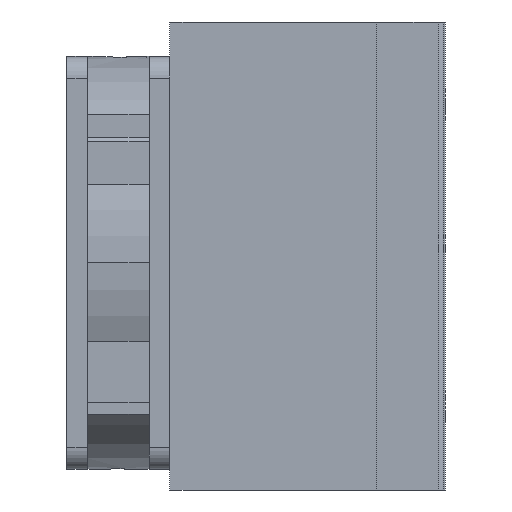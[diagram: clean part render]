
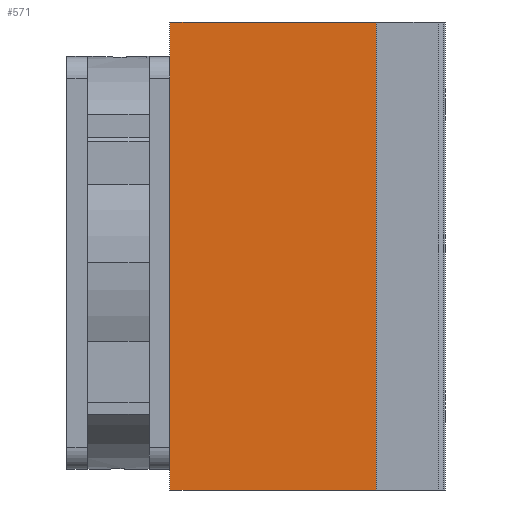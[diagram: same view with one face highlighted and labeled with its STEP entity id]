
A CAD part, left-side view. The second image highlights one B-rep face of the part: STEP entity #571.
In plain terms, the highlighted planar face has unit normal (-1, 0, 0).
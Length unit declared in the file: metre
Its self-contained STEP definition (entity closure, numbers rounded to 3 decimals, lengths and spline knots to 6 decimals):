
#571=ADVANCED_FACE('11:6706',(#1333),#1334,.T.);
#1333=FACE_OUTER_BOUND('',#2319,.T.);
#1334=PLANE('',#2320);
#2319=EDGE_LOOP('',(#5119,#5120,#5121,#5122));
#2320=AXIS2_PLACEMENT_3D('',#5123,#5124,#5125);
#5119=ORIENTED_EDGE('',*,*,#7523,.F.);
#5120=ORIENTED_EDGE('',*,*,#7289,.F.);
#5121=ORIENTED_EDGE('',*,*,#7594,.T.);
#5122=ORIENTED_EDGE('',*,*,#7300,.T.);
#5123=CARTESIAN_POINT('',(0.023526,-0.001326,0.23));
#5124=DIRECTION('',(-1.0,0.0,0.0));
#5125=DIRECTION('',(0.0,1.0,0.0));
#7289=EDGE_CURVE('11:6724',#8648,#8650,#8651,.T.);
#7300=EDGE_CURVE('12:44752',#8669,#8667,#8670,.F.);
#7523=EDGE_CURVE('11:6721',#8650,#8667,#9002,.T.);
#7594=EDGE_CURVE('11:6748',#8648,#8669,#9073,.T.);
#8648=VERTEX_POINT('',#10604);
#8650=VERTEX_POINT('',#10607);
#8651=LINE('',#10608,#10609);
#8667=VERTEX_POINT('',#10631);
#8669=VERTEX_POINT('',#10634);
#8670=LINE('',#10635,#10636);
#9002=LINE('',#11131,#11132);
#9073=LINE('',#11243,#11244);
#10604=CARTESIAN_POINT('',(0.023526,0.014924,0.231));
#10607=CARTESIAN_POINT('',(0.023526,-0.015076,0.231));
#10608=CARTESIAN_POINT('',(0.023526,-0.000663,0.231));
#10609=VECTOR('',#14294,1.0);
#10631=CARTESIAN_POINT('',(0.023526,-0.015076,0.163));
#10634=CARTESIAN_POINT('',(0.023526,0.014924,0.163));
#10635=CARTESIAN_POINT('',(0.023526,-0.009451,0.163));
#10636=VECTOR('',#14308,1.0);
#11131=CARTESIAN_POINT('',(0.023526,-0.015076,0.19));
#11132=VECTOR('',#14490,1.0);
#11243=CARTESIAN_POINT('',(0.023526,0.014924,0.23));
#11244=VECTOR('',#14537,1.0);
#14294=DIRECTION('',(0.0,-1.0,0.0));
#14308=DIRECTION('',(0.0,1.0,0.0));
#14490=DIRECTION('',(-0.0,-0.0,-1.0));
#14537=DIRECTION('',(0.0,0.0,-1.0));
